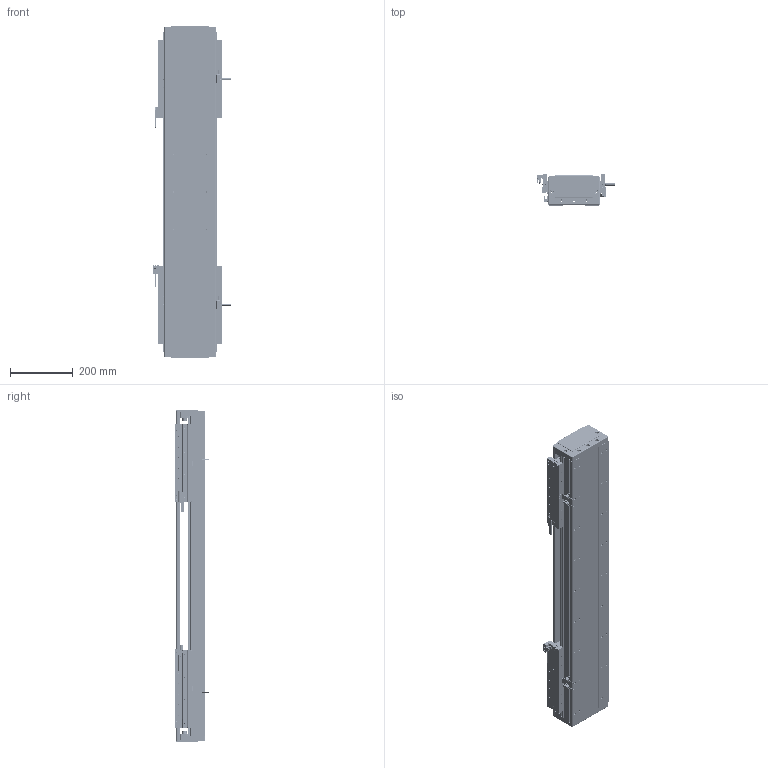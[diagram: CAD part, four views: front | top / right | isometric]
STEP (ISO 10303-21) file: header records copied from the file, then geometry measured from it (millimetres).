
FILE_DESCRIPTION (( 'STEP AP203' ), '1' );
FILE_NAME ('DA-C165-2-C3-T440-C010-0.2 直线电机.STEP', '2023-06-13T09:33:54', ( '微软用户' ), ( '微软中国' ), 'SwSTEP 2.0', 'SolidWorks 2019', '' );
FILE_SCHEMA (( 'CONFIG_CONTROL_DESIGN' ));
Length unit declared in the file: millimetre
Products named in the file (19): 复件 XD-U-02L 磁栅尺^DA-C165-C3-T-C010-0.2-N 直线电机_T; 葩璃 PM-T45^DA-C165-C3-T-C010-0.2-N 眻盄萇儂; 复件 DKW-HXJ-JY-00 缓冲橡胶^DA-C165-C3-T-C010-0.2-N 直线电机; 复件 66338-1000-006-00 光电感应块^DA-C165-C3-T-C010-0.2-N 直线电机; IU-CU165-L 菁釱絳寢; 复件 DMA-010-0.2 读数头^DA-C165-C3-T-C010-0.2-N 直线电机; 葩璃 CKM03-W075-C1C2-TP-3.0^DA-C165-C3-T-C010-0.2-N 眻盄萇儂; 复件 DA165-GYP-00 光电感应片^DA-C165-C3-T-C010-0.2-N 直线电机; DA-C165-2-C3-T440-C010-0.2 眻盄萇儂; 葩璃 PM-Y45^DA-C165-C3-T-C010-0.2-N 眻盄萇儂; 复件 六角薄螺母 M3^DA-C165-C3-T-C010-0.2-N 直线电机_GB_FASTENER_NUT_STNAB M3-C; 复件 DA165-T-002-00 盖板^DA-C165-C3-T-C010-0.2-N 直线电机_0840-002-00; 复件 DA165-DG-H-N-00 端盖^DA-C165-C3-T-C010-0.2-N 直线电机; 葩璃 DA95-GT-T-00^IU-CU165-L 菁釱絳寢_T; 珨极趙賑雄怢啣C3-wf; 复件 DA126-GYP-ZJ-00 中间光电感应片^DA-C165-C3-T-C010-0.2-N 直线电机; 复件 CU165 底座^IU-CU165-L 底座导轨_L1020; 复件 DA95-HXJ-00 缓冲橡胶^DA-C165-C3-T-C010-0.2-N 直线电机; 葩璃 CKM01-W075-TRL^DA-C165-C3-T-C010-0.2-N 眻盄萇儂
Assembly tree (40 placements, depth 3):
  DA-C165-2-C3-T440-C010-0.2 眻盄萇儂
    IU-CU165-L 菁釱絳寢
      复件 CU165 底座^IU-CU165-L 底座导轨_L1020
      葩璃 DA95-GT-T-00^IU-CU165-L 菁釱絳寢_T  x4
    复件 DA165-DG-H-N-00 端盖^DA-C165-C3-T-C010-0.2-N 直线电机  x2
    复件 DA95-HXJ-00 缓冲橡胶^DA-C165-C3-T-C010-0.2-N 直线电机  x4
    复件 DA165-T-002-00 盖板^DA-C165-C3-T-C010-0.2-N 直线电机_0840-002-00
    复件 XD-U-02L 磁栅尺^DA-C165-C3-T-C010-0.2-N 直线电机_T
    葩璃 PM-T45^DA-C165-C3-T-C010-0.2-N 眻盄萇儂  x4
    葩璃 CKM01-W075-TRL^DA-C165-C3-T-C010-0.2-N 眻盄萇儂
    复件 DMA-010-0.2 读数头^DA-C165-C3-T-C010-0.2-N 直线电机  x2
    复件 DA165-GYP-00 光电感应片^DA-C165-C3-T-C010-0.2-N 直线电机  x2
    复件 66338-1000-006-00 光电感应块^DA-C165-C3-T-C010-0.2-N 直线电机
    葩璃 PM-Y45^DA-C165-C3-T-C010-0.2-N 眻盄萇儂
    复件 DA126-GYP-ZJ-00 中间光电感应片^DA-C165-C3-T-C010-0.2-N 直线电机
    葩璃 CKM03-W075-C1C2-TP-3.0^DA-C165-C3-T-C010-0.2-N 眻盄萇儂  x2
    复件 DKW-HXJ-JY-00 缓冲橡胶^DA-C165-C3-T-C010-0.2-N 直线电机  x2
    复件 六角薄螺母 M3^DA-C165-C3-T-C010-0.2-N 直线电机_GB_FASTENER_NUT_STNAB M3-C  x8
    珨极趙賑雄怢啣C3-wf  x2
Bounding box: 247.2 x 111.45 x 1060 mm (x, y, z)
Volume: 10427858 mm3; surface area: 2586028.3 mm2
Topology: 117 solids, 217 shells, 5758 faces, 14949 edges, 9158 vertices
Faces by surface type: cylinder 2728, plane 1978, cone 956, torus 88, sphere 8
Entity records: 110088 total; most frequent: CARTESIAN_POINT 25664, DIRECTION 17411, ORIENTED_EDGE 16784, EDGE_CURVE 8392, AXIS2_PLACEMENT_3D 6543, VERTEX_POINT 5412, LINE 4325, VECTOR 4325
